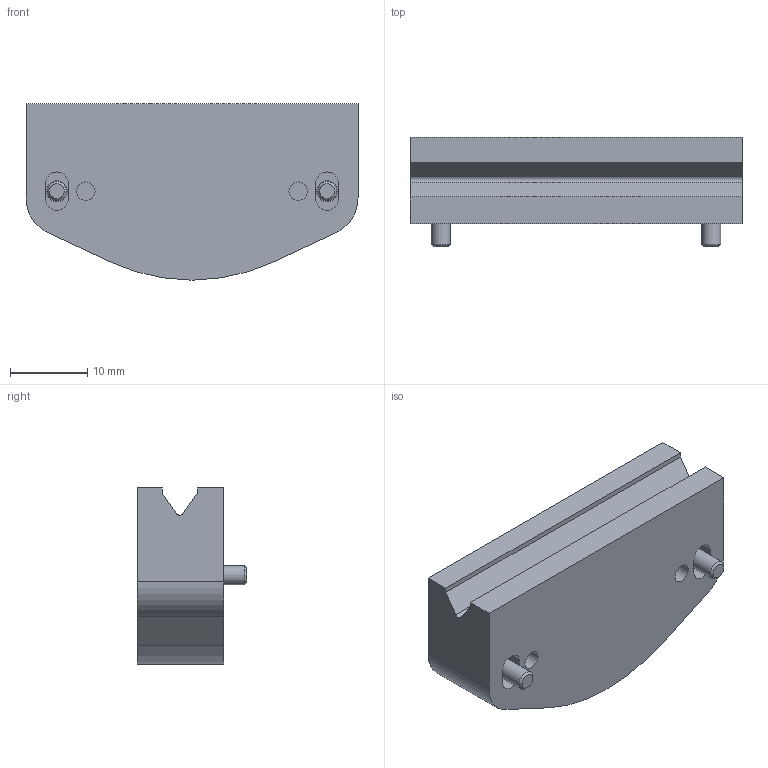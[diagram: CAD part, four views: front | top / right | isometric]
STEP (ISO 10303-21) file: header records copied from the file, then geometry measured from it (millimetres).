
FILE_DESCRIPTION( ( 'STEP AP203' ), '1' );
FILE_NAME( 'p:/temp/worker_137/temp/exporttempdir_6136_59_EfkjM/format_1/CW195-B.stp', '2021-09-29T07:51:29', ( 'License CC BY-ND 4.0' ), ( 'CADENAS' ), ' ', 'PARTsolutions', ' ' );
FILE_SCHEMA( ( 'CONFIG_CONTROL_DESIGN' ) );
Length unit declared in the file: millimetre
Products named in the file (1): _CW195-B
Bounding box: 43 x 14.2 x 22.8 mm (x, y, z)
Volume: 8842.9 mm3; surface area: 3903.7 mm2
Topology: 1 solids, 1 shells, 86 faces, 206 edges, 136 vertices
Faces by surface type: plane 59, cylinder 21, cone 4, sphere 2
Full cylindrical faces by diameter (mm): 2.4 x2, 2.5 x2, 2.7 x2, 5.01 x2
Entity records: 2466 total; most frequent: DIRECTION 436, CARTESIAN_POINT 411, ORIENTED_EDGE 380, EDGE_CURVE 190, AXIS2_PLACEMENT_3D 159, VERTEX_POINT 134, LINE 118, VECTOR 118
